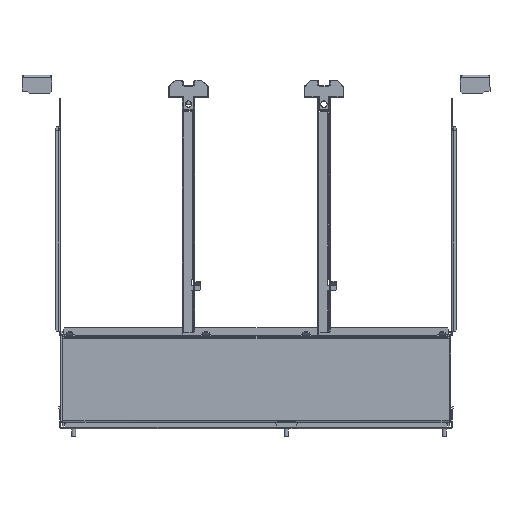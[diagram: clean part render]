
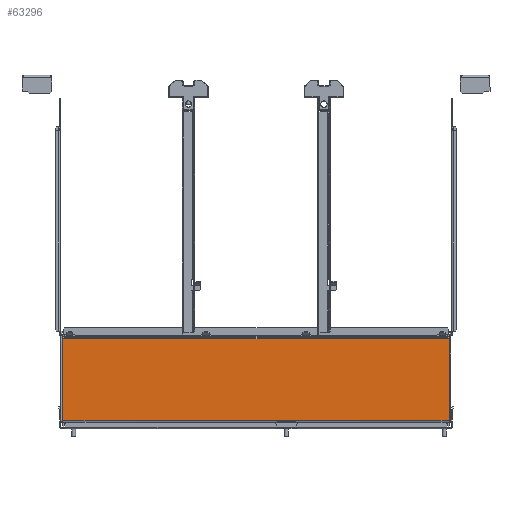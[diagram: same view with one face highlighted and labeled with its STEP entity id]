
A CAD part, front view. The second image highlights one B-rep face of the part: STEP entity #63296.
In plain terms, the highlighted planar face has unit normal (0, -1, 0).
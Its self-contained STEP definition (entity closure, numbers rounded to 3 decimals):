
#50311=CARTESIAN_POINT(' ',(-245.,-70.,0.6));
#50312=VERTEX_POINT(' ',#50311);
#53421=CARTESIAN_POINT(' ',(27.,-70.,0.6));
#53426=DIRECTION(' ',(-1.,0.,0.));
#53431=VECTOR(' ',#53426,1.);
#53436=LINE('',#53421,#53431);
#53441=CARTESIAN_POINT(' ',(27.,-70.,0.6));
#53442=VERTEX_POINT(' ',#53441);
#53446=EDGE_CURVE(' ',#53442,#50312,#53436,.T.);
#53566=CARTESIAN_POINT(' ',(50.,-70.,0.6));
#53567=VERTEX_POINT(' ',#53566);
#53621=CARTESIAN_POINT(' ',(245.,-70.,0.6));
#53622=VERTEX_POINT(' ',#53621);
#53636=CARTESIAN_POINT(' ',(245.,-70.,0.6));
#53641=DIRECTION(' ',(-1.,0.,0.));
#53646=VECTOR(' ',#53641,1.);
#53651=LINE('',#53636,#53646);
#53656=EDGE_CURVE(' ',#53622,#53567,#53651,.T.);
#54996=CARTESIAN_POINT(' ',(-245.,-70.,0.6));
#55001=DIRECTION(' ',(0.,0.,1.));
#55006=VECTOR(' ',#55001,1.);
#55011=LINE('',#54996,#55006);
#55016=CARTESIAN_POINT(' ',(-245.,-70.,104.4));
#55017=VERTEX_POINT(' ',#55016);
#55021=EDGE_CURVE(' ',#50312,#55017,#55011,.T.);
#63081=DIRECTION(' ',(-0.,-1.,0.));
#63086=CARTESIAN_POINT(' ',(-245.,-70.,0.6));
#63091=DIRECTION(' ',(1.,0.,-0.));
#63096=AXIS2_PLACEMENT_3D(' ',#63086,#63081,#63091);
#63101=PLANE('NONE',#63096);
#63106=CARTESIAN_POINT(' ',(27.,-70.,1.));
#63111=DIRECTION(' ',(0.,0.,-1.));
#63116=VECTOR(' ',#63111,1.);
#63121=LINE('',#63106,#63116);
#63126=CARTESIAN_POINT(' ',(27.,-70.,1.));
#63127=VERTEX_POINT(' ',#63126);
#63131=EDGE_CURVE(' ',#63127,#53442,#63121,.T.);
#63136=ORIENTED_EDGE(' ',*,*,#63131,.F.);
#63141=CARTESIAN_POINT(' ',(50.,-70.,1.));
#63146=DIRECTION(' ',(-1.,0.,0.));
#63151=VECTOR(' ',#63146,1.);
#63156=LINE('',#63141,#63151);
#63161=CARTESIAN_POINT(' ',(50.,-70.,1.));
#63162=VERTEX_POINT(' ',#63161);
#63166=EDGE_CURVE(' ',#63162,#63127,#63156,.T.);
#63171=ORIENTED_EDGE(' ',*,*,#63166,.F.);
#63176=CARTESIAN_POINT(' ',(50.,-70.,1.));
#63181=DIRECTION(' ',(0.,0.,-1.));
#63186=VECTOR(' ',#63181,1.);
#63191=LINE('',#63176,#63186);
#63196=EDGE_CURVE(' ',#63162,#53567,#63191,.T.);
#63201=ORIENTED_EDGE(' ',*,*,#63196,.T.);
#63206=ORIENTED_EDGE(' ',*,*,#53656,.F.);
#63211=CARTESIAN_POINT(' ',(245.,-70.,0.6));
#63216=DIRECTION(' ',(0.,0.,1.));
#63221=VECTOR(' ',#63216,1.);
#63226=LINE('',#63211,#63221);
#63231=CARTESIAN_POINT(' ',(245.,-70.,104.4));
#63232=VERTEX_POINT(' ',#63231);
#63236=EDGE_CURVE(' ',#53622,#63232,#63226,.T.);
#63241=ORIENTED_EDGE(' ',*,*,#63236,.T.);
#63246=CARTESIAN_POINT(' ',(245.,-70.,104.4));
#63251=DIRECTION(' ',(-1.,0.,0.));
#63256=VECTOR(' ',#63251,1.);
#63261=LINE('',#63246,#63256);
#63266=EDGE_CURVE(' ',#63232,#55017,#63261,.T.);
#63271=ORIENTED_EDGE(' ',*,*,#63266,.T.);
#63276=ORIENTED_EDGE(' ',*,*,#55021,.F.);
#63281=ORIENTED_EDGE(' ',*,*,#53446,.F.);
#63286=EDGE_LOOP(' ',(#63136,#63171,#63201,#63206,#63241,#63271,#63276,#63281));
#63291=FACE_OUTER_BOUND(' ',#63286,.T.);
#63296=ADVANCED_FACE('NONE',(#63291),#63101,.T.);
